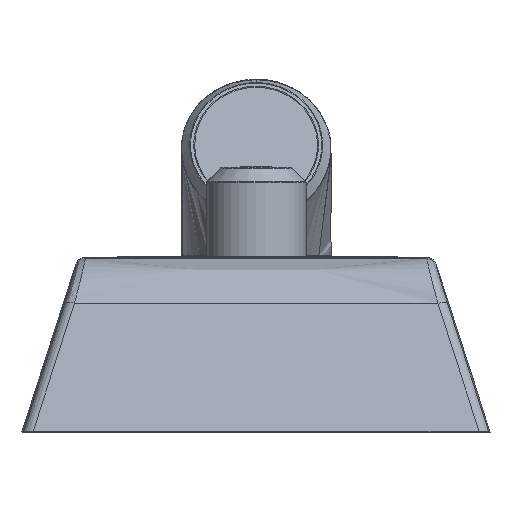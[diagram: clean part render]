
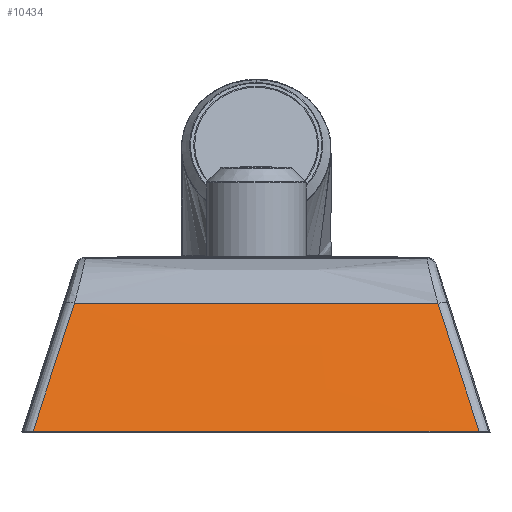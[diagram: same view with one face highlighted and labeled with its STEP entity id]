
A CAD part, front view. The second image highlights one B-rep face of the part: STEP entity #10434.
In plain terms, the highlighted free-form (B-spline) face has degree [3, 3] with [4, 4] control points.
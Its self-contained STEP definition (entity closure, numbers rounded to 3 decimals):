
#156 = B_SPLINE_CURVE_WITH_KNOTS ( 'NONE', 3,
 ( #3105, #8191, #9810, #7338 ),
 .UNSPECIFIED., .F., .F.,
 ( 4, 4 ),
 ( 0., 1. ),
 .UNSPECIFIED. ) ;
#166 = EDGE_CURVE ( 'NONE', #1389, #6472, #7008, .T. ) ;
#332 = CARTESIAN_POINT ( 'NONE',  ( 89.294, -2.098, 63.566 ) ) ;
#405 = EDGE_LOOP ( 'NONE', ( #4853, #10647, #2605, #4623 ) ) ;
#550 = CARTESIAN_POINT ( 'NONE',  ( 0., -23.175, 0.793 ) ) ;
#752 = CARTESIAN_POINT ( 'NONE',  ( -109.52, -23.175, 0.793 ) ) ;
#1104 = CARTESIAN_POINT ( 'NONE',  ( -109.52, -23.175, 0.793 ) ) ;
#1231 = B_SPLINE_SURFACE_WITH_KNOTS ( 'NONE', 3, 3, ( 
 ( #1104, #5365, #4540, #10262 ),
 ( #6065, #7779, #2846, #4380 ),
 ( #6869, #2089, #7880, #8490 ),
 ( #7078, #6009, #5259, #332 ) ),
 .UNSPECIFIED., .F., .F., .F.,
 ( 4, 4 ),
 ( 4, 4 ),
 ( 0., 1. ),
 ( 0., 1. ),
 .UNSPECIFIED. ) ;
#1389 = VERTEX_POINT ( 'NONE', #2312 ) ;
#1716 = CARTESIAN_POINT ( 'NONE',  ( 109.52, -23.175, 0.793 ) ) ;
#1939 = CARTESIAN_POINT ( 'NONE',  ( 109.52, -23.175, 0.793 ) ) ;
#2089 = CARTESIAN_POINT ( 'NONE',  ( 34.26, -16.114, 22.132 ) ) ;
#2312 = CARTESIAN_POINT ( 'NONE',  ( -89.284, -2.089, 63.595 ) ) ;
#2418 = CARTESIAN_POINT ( 'NONE',  ( 96.041, -9.117, 42.641 ) ) ;
#2605 = ORIENTED_EDGE ( 'NONE', *, *, #4175, .T. ) ;
#2846 = CARTESIAN_POINT ( 'NONE',  ( -32.009, -9.054, 43.477 ) ) ;
#3105 = CARTESIAN_POINT ( 'NONE',  ( 89.294, -2.098, 63.566 ) ) ;
#3660 = CARTESIAN_POINT ( 'NONE',  ( 109.52, -23.175, 0.793 ) ) ;
#3876 = CARTESIAN_POINT ( 'NONE',  ( 54.76, -23.175, 0.793 ) ) ;
#4021 = B_SPLINE_CURVE_WITH_KNOTS ( 'NONE', 3,
 ( #7990, #8041, #8847, #550, #3876, #4754, #3660 ),
 .UNSPECIFIED., .F., .F.,
 ( 4, 1, 1, 1, 4 ),
 ( 0.093, 0.296, 0.5, 0.704, 0.907 ),
 .UNSPECIFIED. ) ;
#4164 = CARTESIAN_POINT ( 'NONE',  ( 89.294, -2.098, 63.566 ) ) ;
#4175 = EDGE_CURVE ( 'NONE', #8927, #1389, #156, .T. ) ;
#4380 = CARTESIAN_POINT ( 'NONE',  ( -29.757, -2.004, 64.82 ) ) ;
#4451 = CARTESIAN_POINT ( 'NONE',  ( -102.779, -16.141, 21.727 ) ) ;
#4540 = CARTESIAN_POINT ( 'NONE',  ( -96.035, -9.11, 42.661 ) ) ;
#4623 = ORIENTED_EDGE ( 'NONE', *, *, #166, .T. ) ;
#4754 = CARTESIAN_POINT ( 'NONE',  ( 91.266, -23.175, 0.793 ) ) ;
#4853 = ORIENTED_EDGE ( 'NONE', *, *, #7872, .T. ) ;
#5011 = VERTEX_POINT ( 'NONE', #1939 ) ;
#5259 = CARTESIAN_POINT ( 'NONE',  ( 96.041, -9.117, 42.641 ) ) ;
#5365 = CARTESIAN_POINT ( 'NONE',  ( -102.779, -16.141, 21.727 ) ) ;
#6009 = CARTESIAN_POINT ( 'NONE',  ( 102.782, -16.144, 21.717 ) ) ;
#6065 = CARTESIAN_POINT ( 'NONE',  ( -36.507, -23.175, 0.793 ) ) ;
#6472 = VERTEX_POINT ( 'NONE', #752 ) ;
#6869 = CARTESIAN_POINT ( 'NONE',  ( 36.507, -23.175, 0.793 ) ) ;
#6973 = FACE_OUTER_BOUND ( 'NONE', #405, .T. ) ;
#7008 = B_SPLINE_CURVE_WITH_KNOTS ( 'NONE', 3,
 ( #10229, #7850, #4451, #10336 ),
 .UNSPECIFIED., .F., .F.,
 ( 4, 4 ),
 ( 0., 1. ),
 .UNSPECIFIED. ) ;
#7078 = CARTESIAN_POINT ( 'NONE',  ( 109.52, -23.175, 0.793 ) ) ;
#7338 = CARTESIAN_POINT ( 'NONE',  ( -89.284, -2.089, 63.595 ) ) ;
#7538 = EDGE_CURVE ( 'NONE', #5011, #8927, #8680, .T. ) ;
#7779 = CARTESIAN_POINT ( 'NONE',  ( -34.258, -16.112, 22.135 ) ) ;
#7850 = CARTESIAN_POINT ( 'NONE',  ( -96.035, -9.11, 42.661 ) ) ;
#7872 = EDGE_CURVE ( 'NONE', #6472, #5011, #4021, .T. ) ;
#7880 = CARTESIAN_POINT ( 'NONE',  ( 32.013, -9.057, 43.471 ) ) ;
#7990 = CARTESIAN_POINT ( 'NONE',  ( -109.52, -23.175, 0.793 ) ) ;
#8041 = CARTESIAN_POINT ( 'NONE',  ( -91.266, -23.175, 0.793 ) ) ;
#8191 = CARTESIAN_POINT ( 'NONE',  ( 29.763, -2.008, 64.81 ) ) ;
#8490 = CARTESIAN_POINT ( 'NONE',  ( 29.763, -2.008, 64.81 ) ) ;
#8680 = B_SPLINE_CURVE_WITH_KNOTS ( 'NONE', 3,
 ( #1716, #10646, #2418, #4164 ),
 .UNSPECIFIED., .F., .F.,
 ( 4, 4 ),
 ( 0., 1. ),
 .UNSPECIFIED. ) ;
#8847 = CARTESIAN_POINT ( 'NONE',  ( -54.76, -23.175, 0.793 ) ) ;
#8927 = VERTEX_POINT ( 'NONE', #9286 ) ;
#9286 = CARTESIAN_POINT ( 'NONE',  ( 89.294, -2.098, 63.566 ) ) ;
#9810 = CARTESIAN_POINT ( 'NONE',  ( -29.757, -2.004, 64.82 ) ) ;
#10229 = CARTESIAN_POINT ( 'NONE',  ( -89.284, -2.089, 63.595 ) ) ;
#10262 = CARTESIAN_POINT ( 'NONE',  ( -89.284, -2.089, 63.595 ) ) ;
#10336 = CARTESIAN_POINT ( 'NONE',  ( -109.52, -23.175, 0.793 ) ) ;
#10434 = ADVANCED_FACE ( 'NONE', ( #6973 ), #1231, .T. ) ;
#10646 = CARTESIAN_POINT ( 'NONE',  ( 102.782, -16.144, 21.717 ) ) ;
#10647 = ORIENTED_EDGE ( 'NONE', *, *, #7538, .T. ) ;
